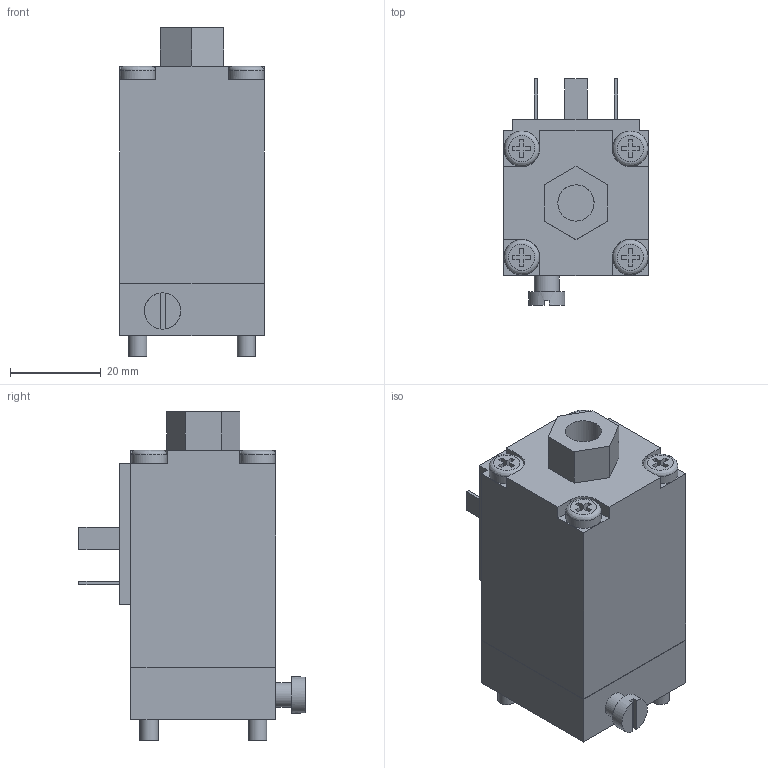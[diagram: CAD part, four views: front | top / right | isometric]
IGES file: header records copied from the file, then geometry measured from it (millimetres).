
Global section: file name: S##; native system: Autodesk Inventor 2014; preprocessor: unknown; author: R.Rivoltella; organization: Pneumax S.p.A.; date: 20161004.163214; units: millimetre
Bounding box: 32 x 50 x 72.6 mm (x, y, z)
Volume: 62977 mm3; surface area: 15560.1 mm2
Topology: 2 solids, 2 shells, 147 faces, 369 edges, 245 vertices
Faces by surface type: bspline 147
